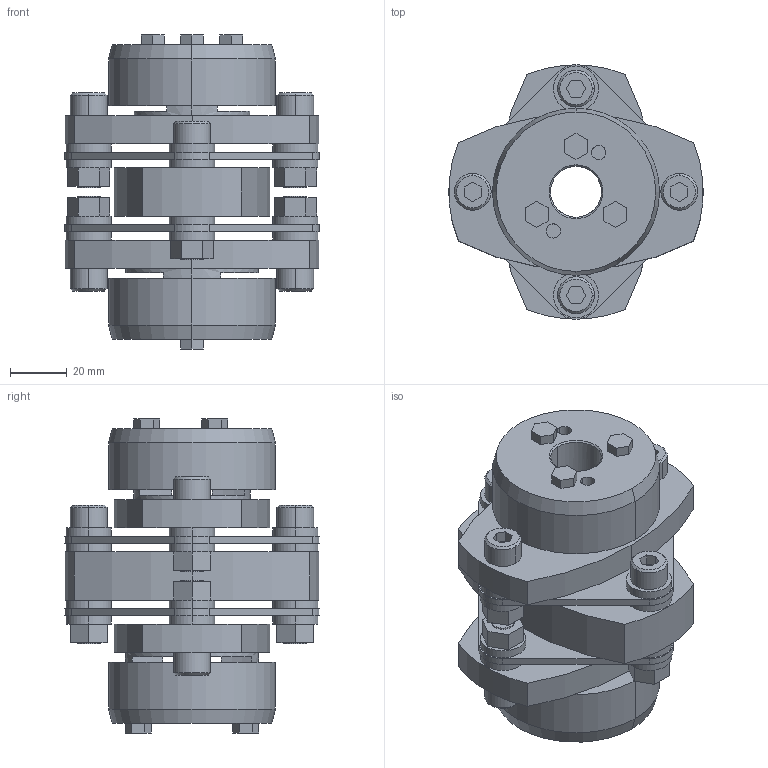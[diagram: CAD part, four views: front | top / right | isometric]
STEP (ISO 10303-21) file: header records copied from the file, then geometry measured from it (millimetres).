
FILE_DESCRIPTION((''),'2;1');
FILE_NAME('LCD-90T7-18×24.stp','2015-11-01T19:18:27',(''),(''),'AutoCAD STEP 2000i','AutoCAD 2000i',', , ');
FILE_SCHEMA(('CONFIG_CONTROL_DESIGN'));
Length unit declared in the file: millimetre
Products named in the file (6): LCD-90T7-19×25; 忣兜1; LC90T7-T025; LC90T7-T019-1; LC90T7-T019; LCD90-ITA
Assembly tree (5 placements, depth 2):
  LCD-90T7-19×25
    忣兜1
    LC90T7-T025
    LC90T7-T019-1
    LC90T7-T019
    LCD90-ITA
Bounding box: 90 x 89.94 x 111 mm (x, y, z)
Volume: 274899.2 mm3; surface area: 73589.4 mm2
Topology: 1 solids, 1 shells, 313 faces, 762 edges, 500 vertices
Faces by surface type: plane 169, cylinder 120, cone 24
Entity records: 9441 total; most frequent: DIRECTION 1680, CARTESIAN_POINT 1581, ORIENTED_EDGE 1524, EDGE_CURVE 762, AXIS2_PLACEMENT_3D 599, VERTEX_POINT 500, VECTOR 482, LINE 482
